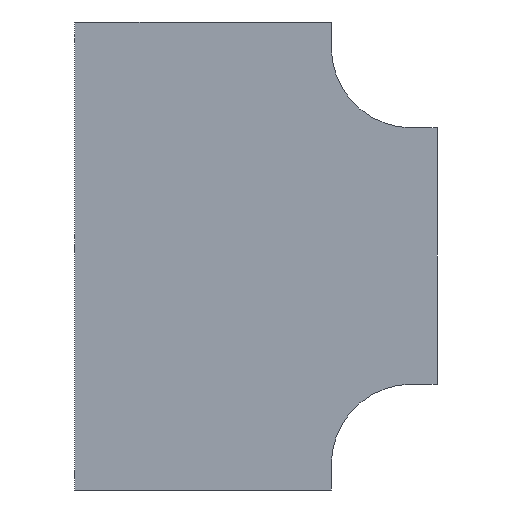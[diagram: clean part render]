
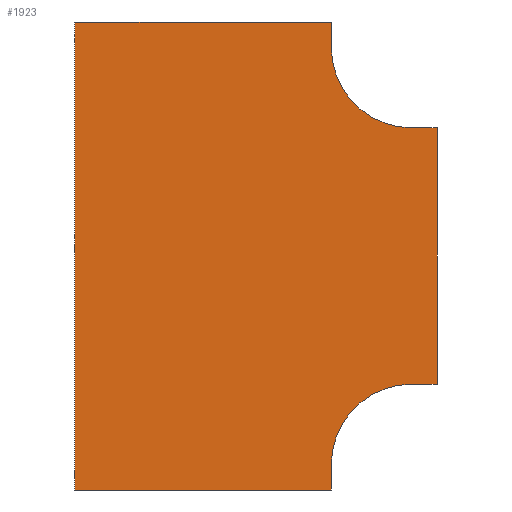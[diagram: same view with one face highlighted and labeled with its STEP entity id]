
A CAD part, front view. The second image highlights one B-rep face of the part: STEP entity #1923.
In plain terms, the highlighted planar face has unit normal (0, -1, 0).
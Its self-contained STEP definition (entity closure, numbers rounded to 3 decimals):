
#46 = CARTESIAN_POINT ( 'NONE',  ( -125., 0., -690. ) ) ;
#50 = EDGE_CURVE ( 'NONE', #534, #1938, #1336, .T. ) ;
#96 = DIRECTION ( 'NONE',  ( 0., 0., 1. ) ) ;
#157 = ORIENTED_EDGE ( 'NONE', *, *, #283, .F. ) ;
#170 = PLANE ( 'NONE',  #853 ) ;
#180 = CARTESIAN_POINT ( 'NONE',  ( -125., 0., -690. ) ) ;
#188 = CIRCLE ( 'NONE', #1511, 125. ) ;
#212 = CARTESIAN_POINT ( 'NONE',  ( -525., 0., 40. ) ) ;
#240 = DIRECTION ( 'NONE',  ( 1., 0., 0. ) ) ;
#283 = EDGE_CURVE ( 'NONE', #1782, #2099, #2179, .T. ) ;
#316 = CARTESIAN_POINT ( 'NONE',  ( -125., 0., 40. ) ) ;
#322 = DIRECTION ( 'NONE',  ( 1., 0., 0. ) ) ;
#336 = VECTOR ( 'NONE', #1961, 1000. ) ;
#391 = EDGE_CURVE ( 'NONE', #1938, #1158, #1373, .T. ) ;
#403 = CARTESIAN_POINT ( 'NONE',  ( 0., 0., 0. ) ) ;
#413 = CARTESIAN_POINT ( 'NONE',  ( 40., 0., -125. ) ) ;
#440 = DIRECTION ( 'NONE',  ( 0., 0., -1. ) ) ;
#521 = VECTOR ( 'NONE', #322, 1000. ) ;
#534 = VERTEX_POINT ( 'NONE', #750 ) ;
#547 = CARTESIAN_POINT ( 'NONE',  ( 40., 0., -525. ) ) ;
#549 = CARTESIAN_POINT ( 'NONE',  ( -125., 0., 40. ) ) ;
#573 = VERTEX_POINT ( 'NONE', #976 ) ;
#608 = EDGE_CURVE ( 'NONE', #2099, #1986, #1826, .T. ) ;
#663 = ORIENTED_EDGE ( 'NONE', *, *, #1555, .F. ) ;
#666 = CARTESIAN_POINT ( 'NONE',  ( 0., 0., 0. ) ) ;
#730 = DIRECTION ( 'NONE',  ( 0., 0., -1. ) ) ;
#750 = CARTESIAN_POINT ( 'NONE',  ( -525., 0., -690. ) ) ;
#756 = LINE ( 'NONE', #46, #1066 ) ;
#769 = DIRECTION ( 'NONE',  ( 0., 0., -1. ) ) ;
#775 = DIRECTION ( 'NONE',  ( 0., 0., 1. ) ) ;
#853 = AXIS2_PLACEMENT_3D ( 'NONE', #403, #1677, #769 ) ;
#868 = DIRECTION ( 'NONE',  ( -1., 0., 0. ) ) ;
#870 = DIRECTION ( 'NONE',  ( 0., 0., -1. ) ) ;
#960 = CARTESIAN_POINT ( 'NONE',  ( 0., 0., -125. ) ) ;
#976 = CARTESIAN_POINT ( 'NONE',  ( 0., 0., -125. ) ) ;
#978 = VECTOR ( 'NONE', #868, 1000. ) ;
#987 = ORIENTED_EDGE ( 'NONE', *, *, #391, .F. ) ;
#1032 = CARTESIAN_POINT ( 'NONE',  ( -525., 0., -690. ) ) ;
#1049 = VERTEX_POINT ( 'NONE', #1523 ) ;
#1066 = VECTOR ( 'NONE', #440, 1000. ) ;
#1089 = CARTESIAN_POINT ( 'NONE',  ( -525., 0., -690. ) ) ;
#1093 = VECTOR ( 'NONE', #240, 1000. ) ;
#1140 = EDGE_CURVE ( 'NONE', #1049, #573, #188, .T. ) ;
#1158 = VERTEX_POINT ( 'NONE', #316 ) ;
#1173 = LINE ( 'NONE', #1513, #1318 ) ;
#1227 = EDGE_CURVE ( 'NONE', #1158, #1049, #1685, .T. ) ;
#1318 = VECTOR ( 'NONE', #2250, 1000. ) ;
#1336 = LINE ( 'NONE', #1032, #1972 ) ;
#1354 = ORIENTED_EDGE ( 'NONE', *, *, #2109, .F. ) ;
#1373 = LINE ( 'NONE', #1943, #521 ) ;
#1409 = CARTESIAN_POINT ( 'NONE',  ( 0., 0., -525. ) ) ;
#1449 = ORIENTED_EDGE ( 'NONE', *, *, #2012, .F. ) ;
#1497 = DIRECTION ( 'NONE',  ( 0., -1., 0. ) ) ;
#1511 = AXIS2_PLACEMENT_3D ( 'NONE', #666, #1971, #870 ) ;
#1513 = CARTESIAN_POINT ( 'NONE',  ( 40., 0., -125. ) ) ;
#1523 = CARTESIAN_POINT ( 'NONE',  ( -125., 0., 0. ) ) ;
#1555 = EDGE_CURVE ( 'NONE', #1986, #1729, #756, .T. ) ;
#1665 = FACE_OUTER_BOUND ( 'NONE', #2338, .T. ) ;
#1677 = DIRECTION ( 'NONE',  ( 0., -1., 0. ) ) ;
#1685 = LINE ( 'NONE', #549, #1869 ) ;
#1698 = CARTESIAN_POINT ( 'NONE',  ( 0., 0., -525. ) ) ;
#1708 = AXIS2_PLACEMENT_3D ( 'NONE', #2083, #1497, #775 ) ;
#1723 = LINE ( 'NONE', #960, #1093 ) ;
#1729 = VERTEX_POINT ( 'NONE', #180 ) ;
#1749 = EDGE_CURVE ( 'NONE', #1729, #534, #1789, .T. ) ;
#1751 = ORIENTED_EDGE ( 'NONE', *, *, #1227, .F. ) ;
#1782 = VERTEX_POINT ( 'NONE', #547 ) ;
#1789 = LINE ( 'NONE', #1089, #978 ) ;
#1826 = CIRCLE ( 'NONE', #1708, 125. ) ;
#1869 = VECTOR ( 'NONE', #730, 1000. ) ;
#1923 = ADVANCED_FACE ( 'NONE', ( #1665 ), #170, .T. ) ;
#1938 = VERTEX_POINT ( 'NONE', #212 ) ;
#1943 = CARTESIAN_POINT ( 'NONE',  ( -525., 0., 40. ) ) ;
#1961 = DIRECTION ( 'NONE',  ( -1., 0., 0. ) ) ;
#1971 = DIRECTION ( 'NONE',  ( 0., -1., 0. ) ) ;
#1972 = VECTOR ( 'NONE', #96, 1000. ) ;
#1986 = VERTEX_POINT ( 'NONE', #2023 ) ;
#1991 = ORIENTED_EDGE ( 'NONE', *, *, #608, .F. ) ;
#1999 = VERTEX_POINT ( 'NONE', #413 ) ;
#2012 = EDGE_CURVE ( 'NONE', #573, #1999, #1723, .T. ) ;
#2023 = CARTESIAN_POINT ( 'NONE',  ( -125., 0., -650. ) ) ;
#2050 = ORIENTED_EDGE ( 'NONE', *, *, #1140, .F. ) ;
#2083 = CARTESIAN_POINT ( 'NONE',  ( 0., 0., -650. ) ) ;
#2099 = VERTEX_POINT ( 'NONE', #1698 ) ;
#2109 = EDGE_CURVE ( 'NONE', #1999, #1782, #1173, .T. ) ;
#2179 = LINE ( 'NONE', #1409, #336 ) ;
#2210 = ORIENTED_EDGE ( 'NONE', *, *, #1749, .F. ) ;
#2250 = DIRECTION ( 'NONE',  ( 0., 0., -1. ) ) ;
#2338 = EDGE_LOOP ( 'NONE', ( #987, #2346, #2210, #663, #1991, #157, #1354, #1449, #2050, #1751 ) ) ;
#2346 = ORIENTED_EDGE ( 'NONE', *, *, #50, .F. ) ;
